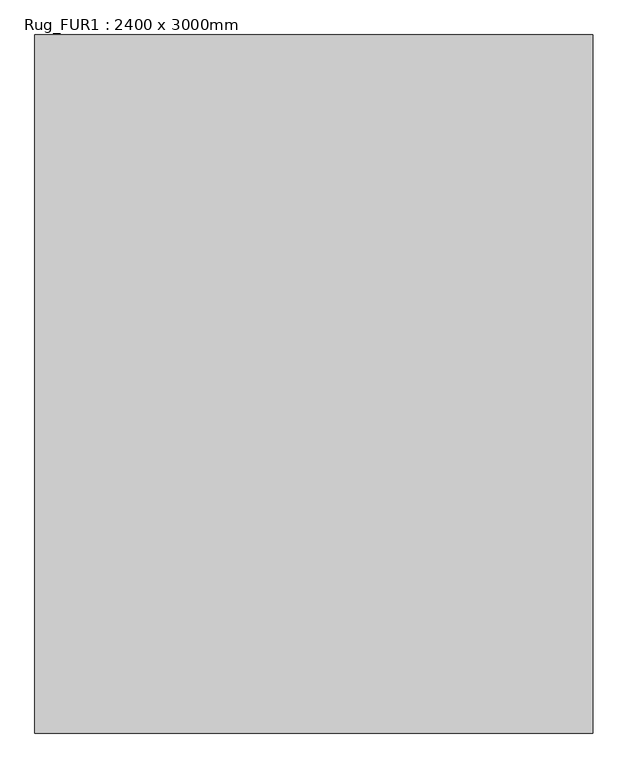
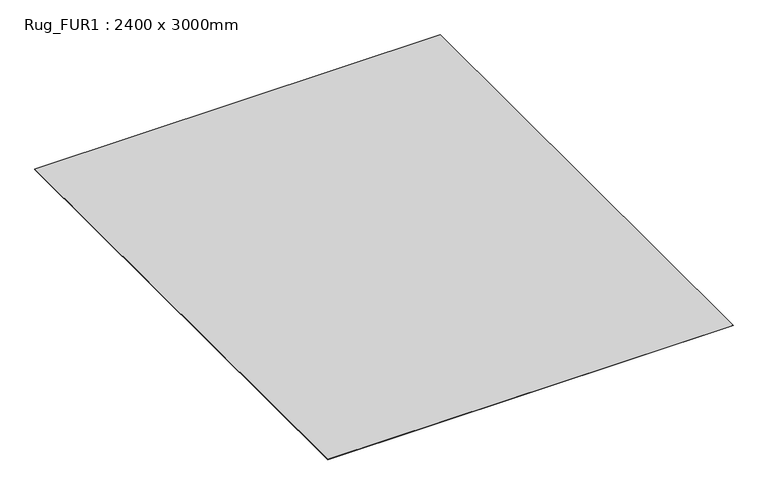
"""IFC4 building model written with IfcOpenShell, lengths in millimetres: proxy geometry, Rug_FUR1 : 2400 x 3000mm."""

import ifcopenshell
import ifcopenshell.guid

model = None  # the IFC model being written
_history = None  # IfcOwnerHistory: only IFC2X3 demands one
_inside = {}  # id of a spatial element -> (the spatial element, [elements in it])
_under = {}  # id of a project, library or spatial element -> (it, [spatial elements below it])
_declared = {}  # id of a project -> (the project, [libraries it declares])
_typed = {}  # id of a type object -> (the type object, [elements of that type])
_made_of = {}  # id of a material, layer set ... -> (it, [elements and type objects made of it])


def new_model(schema):
    """Start an empty IFC model of exactly this schema.

    Asked for "IFC4X3", IfcOpenShell would pick the latest addendum, in which some entities
    have other attributes; the version numbers below select the first issue.
    IFC2X3 requires an IfcOwnerHistory on every rooted entity: one is made here for all.
    """
    global model, _history
    if schema == "IFC4X3":
        model = ifcopenshell.file(schema_version=(4, 3, 0, 0))
    else:
        model = ifcopenshell.file(schema=schema)
    _inside.clear()
    _under.clear()
    _declared.clear()
    _typed.clear()
    _made_of.clear()
    _history = None
    if model.schema == "IFC2X3":
        org = make("IfcOrganization", Name="unknown")
        user = make(
            "IfcPersonAndOrganization",
            ThePerson=make("IfcPerson", FamilyName="unknown"),
            TheOrganization=org,
        )
        app = make(
            "IfcApplication",
            ApplicationDeveloper=org,
            Version="unknown",
            ApplicationFullName="unknown",
            ApplicationIdentifier="unknown",
        )
        _history = make(
            "IfcOwnerHistory",
            OwningUser=user,
            OwningApplication=app,
            ChangeAction="ADDED",
            CreationDate=0,
        )
    return model


def make(cls, **values):
    """One entity of the class cls with the attributes given. An attribute that is None is left unset."""
    return model.create_entity(
        cls, **{name: value for name, value in values.items() if value is not None}
    )


def rooted(cls, **values):
    """An entity with a GlobalId (a new one), such as an element, a storey or a relation."""
    return make(cls, GlobalId=ifcopenshell.guid.new(), OwnerHistory=_history, **values)


def si_unit(unit_type, name, prefix=None):
    """IfcSIUnit, for example si_unit("LENGTHUNIT", "METRE", prefix="MILLI")."""
    return make("IfcSIUnit", UnitType=unit_type, Prefix=prefix, Name=name)


def assignment(units):
    """IfcUnitAssignment: the units of a project."""
    return None if units is None else make("IfcUnitAssignment", Units=units)


def point(xyz):
    """IfcCartesianPoint."""
    return None if xyz is None else make("IfcCartesianPoint", Coordinates=xyz)


def direction(xyz):
    """IfcDirection."""
    return None if xyz is None else make("IfcDirection", DirectionRatios=xyz)


def frame(location, z_axis=None, x_axis=None):
    """IfcAxis2Placement3D, a coordinate frame: its origin and axes. An axis left out is left unset."""
    return make(
        "IfcAxis2Placement3D",
        Location=point(location),
        Axis=direction(z_axis),
        RefDirection=direction(x_axis),
    )


def origin():
    """The frame at (0, 0, 0) with its axes left unset."""
    return frame((0.0, 0.0, 0.0))


def origin_with_axes():
    """The frame at (0, 0, 0) with the z axis (0, 0, 1) and the x axis (1, 0, 0) written out."""
    return frame((0.0, 0.0, 0.0), z_axis=(0.0, 0.0, 1.0), x_axis=(1.0, 0.0, 0.0))


def place(relative_to, where):
    """IfcLocalPlacement: puts the frame where relative to a parent placement (None: the world)."""
    return make(
        "IfcLocalPlacement", PlacementRelTo=relative_to, RelativePlacement=where
    )


def context(
    kind, dimensions, precision=None, world=None, true_north=None, identifier=None
):
    """IfcGeometricRepresentationContext, for example the 3D "Model" context."""
    return make(
        "IfcGeometricRepresentationContext",
        ContextIdentifier=identifier,
        ContextType=kind,
        CoordinateSpaceDimension=dimensions,
        Precision=precision,
        WorldCoordinateSystem=world,
        TrueNorth=true_north,
    )


def project(units=None, contexts=None):
    """IfcProject with its units and contexts."""
    return rooted(
        "IfcProject",
        Name="project",
        RepresentationContexts=contexts,
        UnitsInContext=assignment(units),
    )


def spatial(cls, under=None, at=None, **own):
    """A site, building, storey or space (cls), placed at a placement, below another one or the project."""
    s = rooted(cls, ObjectPlacement=at, **own)
    if under is not None:
        _under.setdefault(under.id(), (under, []))[1].append(s)
    return s


def polyline(points):
    """IfcPolyline through the points."""
    return make("IfcPolyline", Points=[point(p) for p in points])


def outline(outer, holes=None, kind="AREA"):
    """IfcArbitraryClosedProfileDef: a profile drawn as a closed curve; with holes, ...WithVoids."""
    if holes is None:
        return make("IfcArbitraryClosedProfileDef", ProfileType=kind, OuterCurve=outer)
    return make(
        "IfcArbitraryProfileDefWithVoids",
        ProfileType=kind,
        OuterCurve=outer,
        InnerCurves=holes,
    )


def extrude(swept, where, along, depth):
    """IfcExtrudedAreaSolid: the profile swept, set in the frame where, extruded along a direction by depth."""
    return make(
        "IfcExtrudedAreaSolid",
        SweptArea=swept,
        Position=where,
        ExtrudedDirection=direction(along),
        Depth=depth,
    )


def shape(context_of_items, identifier, shape_type, items):
    """IfcShapeRepresentation: the items that make up one representation, for example the "Body"."""
    return make(
        "IfcShapeRepresentation",
        ContextOfItems=context_of_items,
        RepresentationIdentifier=identifier,
        RepresentationType=shape_type,
        Items=items,
    )


def source(mapping_origin, context_of_items, identifier, shape_type, items):
    """IfcRepresentationMap: a shape defined once, which mapped items show again and again."""
    return make(
        "IfcRepresentationMap",
        MappingOrigin=mapping_origin,
        MappedRepresentation=shape(context_of_items, identifier, shape_type, items),
    )


def transform(
    local_origin,
    x_axis=None,
    y_axis=None,
    z_axis=None,
    scale=None,
    scale2=None,
    scale3=None,
    uniform=True,
):
    """IfcCartesianTransformationOperator3D, or its non-uniform kind. x_axis, y_axis, z_axis: its Axis1, 2, 3."""
    if uniform:
        return make(
            "IfcCartesianTransformationOperator3D",
            Axis1=direction(x_axis),
            Axis2=direction(y_axis),
            LocalOrigin=point(local_origin),
            Scale=scale,
            Axis3=direction(z_axis),
        )
    return make(
        "IfcCartesianTransformationOperator3DnonUniform",
        Axis1=direction(x_axis),
        Axis2=direction(y_axis),
        LocalOrigin=point(local_origin),
        Scale=scale,
        Axis3=direction(z_axis),
        Scale2=scale2,
        Scale3=scale3,
    )


def mapped(mapping_source, mapping_target):
    """IfcMappedItem: shows the shape of a source again, moved by a transform."""
    return make(
        "IfcMappedItem", MappingSource=mapping_source, MappingTarget=mapping_target
    )


def made_of(thing, what):
    """Note that an element or type object is made of a material, layer set ...; save() writes the relation."""
    if what is not None:
        _made_of.setdefault(what.id(), (what, []))[1].append(thing)
    return thing


def element(
    cls,
    number,
    at=None,
    inside=None,
    cuts=None,
    type_object=None,
    material=None,
    context=None,
    identifier="Body",
    shape_type=None,
    held_by="IfcProductDefinitionShape",
    body=None,
    shapes=None,
    **own,
):
    """One element of the class cls, such as IfcWall. Its Tag is "e" and its number.

    at: its placement. inside: the storey or other place that contains it. cuts: it is an
    opening in that element (IfcRelVoidsElement). A single representation is given by context,
    identifier, shape_type and body (its items); several are given by shapes. held_by: the class
    of the entity that holds the representations. save() writes the other relations.
    """
    e = rooted(cls, Tag="e%d" % number, ObjectPlacement=at, **own)
    if body is not None:
        shapes = [shape(context, identifier, shape_type, body)]
    if shapes is not None:
        e.Representation = make(held_by, Representations=shapes)
    if inside is not None:
        _inside.setdefault(inside.id(), (inside, []))[1].append(e)
    if cuts is not None:
        rooted(
            "IfcRelVoidsElement", RelatingBuildingElement=cuts, RelatedOpeningElement=e
        )
    if type_object is not None:
        _typed.setdefault(type_object.id(), (type_object, []))[1].append(e)
    return made_of(e, material)


def aggregate(whole, parts):
    """IfcRelAggregates: a whole, such as a stair, and the parts it consists of."""
    return rooted("IfcRelAggregates", RelatingObject=whole, RelatedObjects=parts)


def save(model, path):
    """Write the relations noted so far, then the file.

    IfcRelAggregates (storeys below a building ...), IfcRelContainedInSpatialStructure (elements
    in a storey), IfcRelDefinesByType, IfcRelAssociatesMaterial and IfcRelDeclares: one each for
    every whole, place, type object, material and project.
    """
    for whole, parts in _under.values():
        aggregate(whole, parts)
    for where, things in _inside.values():
        rooted(
            "IfcRelContainedInSpatialStructure",
            RelatedElements=things,
            RelatingStructure=where,
        )
    for kind, things in _typed.values():
        rooted("IfcRelDefinesByType", RelatedObjects=things, RelatingType=kind)
    for what, things in _made_of.values():
        rooted("IfcRelAssociatesMaterial", RelatedObjects=things, RelatingMaterial=what)
    for by, libraries in _declared.values():
        rooted("IfcRelDeclares", RelatingContext=by, RelatedDefinitions=libraries)
    model.write(path)


def rug_fur1_2400_x_3000mm_05212fc9(model_context):
    return source(origin(), model_context, "Body", "SweptSolid", [
        extrude(outline(polyline([(1200.0, -1500.0), (-1200.0, -1500.0), (-1200.0, 1500.0), (1200.0, 1500.0), (1200.0, -1500.0)])), origin_with_axes(), (0.0, 0.0, 1.0), 2.0),
    ])


if __name__ == "__main__":
    model = new_model("IFC4")
    model_context = context("Model", 3, world=origin())
    ifc_project = project(units=[si_unit("LENGTHUNIT", "METRE", prefix="MILLI")], contexts=[model_context])
    site = spatial("IfcSite", under=ifc_project)
    building = spatial("IfcBuilding", under=site)
    placement = place(None, origin())
    rug_fur1_2400_x_3000mm_shape = rug_fur1_2400_x_3000mm_05212fc9(model_context)
    element("IfcBuildingElementProxy", 1, Name="Rug_FUR1 : 2400 x 3000mm", ObjectType="Rug_FUR1 : 2400 x 3000mm", at=placement, inside=building, context=model_context, shape_type="MappedRepresentation", body=[
        mapped(rug_fur1_2400_x_3000mm_shape, transform((0.0, 0.0, 0.0), x_axis=(1.0, 0.0, 0.0), y_axis=(0.0, 1.0, 0.0), z_axis=(0.0, 0.0, 1.0))),
    ])
    save(model, "model.ifc")
